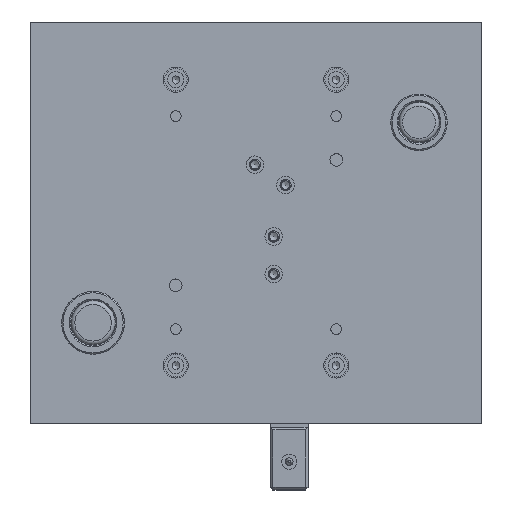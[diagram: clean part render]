
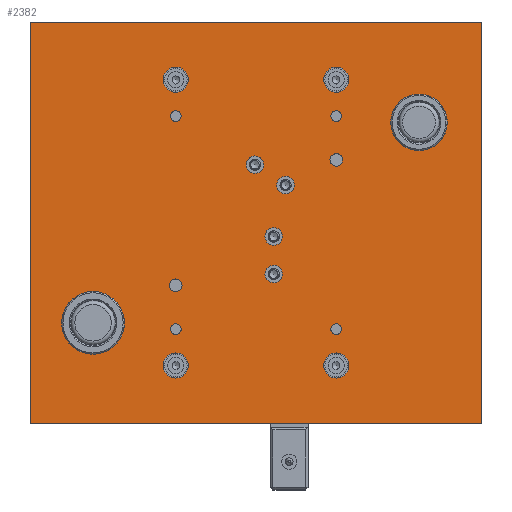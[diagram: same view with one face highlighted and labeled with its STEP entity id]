
A CAD part, top view. The second image highlights one B-rep face of the part: STEP entity #2382.
In plain terms, the highlighted planar face has unit normal (0, 0, 1).
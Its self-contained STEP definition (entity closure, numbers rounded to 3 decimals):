
#719=FACE_BOUND('',#4699,.T.);
#720=FACE_BOUND('',#4700,.T.);
#721=FACE_BOUND('',#4701,.T.);
#722=FACE_BOUND('',#4702,.T.);
#723=FACE_BOUND('',#4703,.T.);
#724=FACE_BOUND('',#4704,.T.);
#725=FACE_BOUND('',#4705,.T.);
#726=FACE_BOUND('',#4706,.T.);
#727=FACE_BOUND('',#4707,.T.);
#728=FACE_BOUND('',#4708,.T.);
#729=FACE_BOUND('',#4709,.T.);
#730=FACE_BOUND('',#4710,.T.);
#731=FACE_BOUND('',#4711,.T.);
#732=FACE_BOUND('',#4712,.T.);
#733=FACE_BOUND('',#4713,.T.);
#734=FACE_BOUND('',#4714,.T.);
#735=FACE_BOUND('',#4715,.T.);
#1608=CIRCLE('',#20901,25.05);
#1609=CIRCLE('',#20902,22.55);
#1610=CIRCLE('',#20903,7.);
#1611=CIRCLE('',#20904,7.);
#1612=CIRCLE('',#20905,7.);
#1613=CIRCLE('',#20906,7.);
#1614=CIRCLE('',#20907,4.25);
#1615=CIRCLE('',#20908,5.);
#1616=CIRCLE('',#20909,4.25);
#1617=CIRCLE('',#20910,4.25);
#1618=CIRCLE('',#20911,10.);
#1619=CIRCLE('',#20912,10.);
#1620=CIRCLE('',#20913,10.);
#1621=CIRCLE('',#20914,10.);
#1622=CIRCLE('',#20915,4.25);
#1623=CIRCLE('',#20916,5.);
#2382=ADVANCED_FACE('',(#719,#720,#721,#722,#723,#724,#725,#726,#727,#728,
#729,#730,#731,#732,#733,#734,#735),#3103,.T.);
#3103=PLANE('',#20917);
#4699=EDGE_LOOP('',(#10855));
#4700=EDGE_LOOP('',(#10856));
#4701=EDGE_LOOP('',(#10857));
#4702=EDGE_LOOP('',(#10858));
#4703=EDGE_LOOP('',(#10859));
#4704=EDGE_LOOP('',(#10860));
#4705=EDGE_LOOP('',(#10861));
#4706=EDGE_LOOP('',(#10862));
#4707=EDGE_LOOP('',(#10863));
#4708=EDGE_LOOP('',(#10864));
#4709=EDGE_LOOP('',(#10865));
#4710=EDGE_LOOP('',(#10866));
#4711=EDGE_LOOP('',(#10867));
#4712=EDGE_LOOP('',(#10868));
#4713=EDGE_LOOP('',(#10869,#10870,#10871,#10872));
#4714=EDGE_LOOP('',(#10873));
#4715=EDGE_LOOP('',(#10874));
#5996=LINE('',#67965,#6946);
#5997=LINE('',#67968,#6947);
#5998=LINE('',#67970,#6948);
#5999=LINE('',#67972,#6949);
#6946=VECTOR('',#23190,1.);
#6947=VECTOR('',#23191,1.);
#6948=VECTOR('',#23192,1.);
#6949=VECTOR('',#23193,1.);
#10855=ORIENTED_EDGE('',*,*,#17476,.F.);
#10856=ORIENTED_EDGE('',*,*,#17477,.F.);
#10857=ORIENTED_EDGE('',*,*,#17478,.F.);
#10858=ORIENTED_EDGE('',*,*,#17479,.F.);
#10859=ORIENTED_EDGE('',*,*,#17480,.F.);
#10860=ORIENTED_EDGE('',*,*,#17481,.F.);
#10861=ORIENTED_EDGE('',*,*,#17482,.F.);
#10862=ORIENTED_EDGE('',*,*,#17483,.T.);
#10863=ORIENTED_EDGE('',*,*,#17484,.F.);
#10864=ORIENTED_EDGE('',*,*,#17485,.T.);
#10865=ORIENTED_EDGE('',*,*,#17486,.F.);
#10866=ORIENTED_EDGE('',*,*,#17487,.F.);
#10867=ORIENTED_EDGE('',*,*,#17488,.F.);
#10868=ORIENTED_EDGE('',*,*,#17489,.F.);
#10869=ORIENTED_EDGE('',*,*,#17490,.F.);
#10870=ORIENTED_EDGE('',*,*,#17491,.F.);
#10871=ORIENTED_EDGE('',*,*,#17492,.F.);
#10872=ORIENTED_EDGE('',*,*,#17493,.F.);
#10873=ORIENTED_EDGE('',*,*,#17494,.T.);
#10874=ORIENTED_EDGE('',*,*,#17495,.T.);
#14757=VERTEX_POINT('',#67938);
#14758=VERTEX_POINT('',#67940);
#14759=VERTEX_POINT('',#67942);
#14760=VERTEX_POINT('',#67944);
#14761=VERTEX_POINT('',#67946);
#14762=VERTEX_POINT('',#67948);
#14763=VERTEX_POINT('',#67950);
#14764=VERTEX_POINT('',#67952);
#14765=VERTEX_POINT('',#67954);
#14766=VERTEX_POINT('',#67956);
#14767=VERTEX_POINT('',#67958);
#14768=VERTEX_POINT('',#67960);
#14769=VERTEX_POINT('',#67962);
#14770=VERTEX_POINT('',#67964);
#14771=VERTEX_POINT('',#67966);
#14772=VERTEX_POINT('',#67967);
#14773=VERTEX_POINT('',#67969);
#14774=VERTEX_POINT('',#67971);
#14775=VERTEX_POINT('',#67974);
#14776=VERTEX_POINT('',#67976);
#17476=EDGE_CURVE('',#14757,#14757,#1608,.T.);
#17477=EDGE_CURVE('',#14758,#14758,#1609,.T.);
#17478=EDGE_CURVE('',#14759,#14759,#1610,.T.);
#17479=EDGE_CURVE('',#14760,#14760,#1611,.T.);
#17480=EDGE_CURVE('',#14761,#14761,#1612,.T.);
#17481=EDGE_CURVE('',#14762,#14762,#1613,.T.);
#17482=EDGE_CURVE('',#14763,#14763,#1614,.T.);
#17483=EDGE_CURVE('',#14764,#14764,#1615,.T.);
#17484=EDGE_CURVE('',#14765,#14765,#1616,.T.);
#17485=EDGE_CURVE('',#14766,#14766,#1617,.T.);
#17486=EDGE_CURVE('',#14767,#14767,#1618,.T.);
#17487=EDGE_CURVE('',#14768,#14768,#1619,.T.);
#17488=EDGE_CURVE('',#14769,#14769,#1620,.T.);
#17489=EDGE_CURVE('',#14770,#14770,#1621,.T.);
#17490=EDGE_CURVE('',#14771,#14772,#5996,.T.);
#17491=EDGE_CURVE('',#14773,#14771,#5997,.T.);
#17492=EDGE_CURVE('',#14774,#14773,#5998,.T.);
#17493=EDGE_CURVE('',#14772,#14774,#5999,.T.);
#17494=EDGE_CURVE('',#14775,#14775,#1622,.T.);
#17495=EDGE_CURVE('',#14776,#14776,#1623,.T.);
#20901=AXIS2_PLACEMENT_3D('',#67937,#23162,#23163);
#20902=AXIS2_PLACEMENT_3D('',#67939,#23164,#23165);
#20903=AXIS2_PLACEMENT_3D('',#67941,#23166,#23167);
#20904=AXIS2_PLACEMENT_3D('',#67943,#23168,#23169);
#20905=AXIS2_PLACEMENT_3D('',#67945,#23170,#23171);
#20906=AXIS2_PLACEMENT_3D('',#67947,#23172,#23173);
#20907=AXIS2_PLACEMENT_3D('',#67949,#23174,#23175);
#20908=AXIS2_PLACEMENT_3D('',#67951,#23176,#23177);
#20909=AXIS2_PLACEMENT_3D('',#67953,#23178,#23179);
#20910=AXIS2_PLACEMENT_3D('',#67955,#23180,#23181);
#20911=AXIS2_PLACEMENT_3D('',#67957,#23182,#23183);
#20912=AXIS2_PLACEMENT_3D('',#67959,#23184,#23185);
#20913=AXIS2_PLACEMENT_3D('',#67961,#23186,#23187);
#20914=AXIS2_PLACEMENT_3D('',#67963,#23188,#23189);
#20915=AXIS2_PLACEMENT_3D('',#67973,#23194,#23195);
#20916=AXIS2_PLACEMENT_3D('',#67975,#23196,#23197);
#20917=AXIS2_PLACEMENT_3D('',#67977,#23198,#23199);
#23162=DIRECTION('',(0.,0.,1.));
#23163=DIRECTION('',(1.,0.,0.));
#23164=DIRECTION('',(0.,0.,1.));
#23165=DIRECTION('',(1.,0.,0.));
#23166=DIRECTION('',(0.,0.,1.));
#23167=DIRECTION('',(1.,0.,0.));
#23168=DIRECTION('',(0.,0.,1.));
#23169=DIRECTION('',(1.,0.,0.));
#23170=DIRECTION('',(0.,0.,1.));
#23171=DIRECTION('',(1.,0.,0.));
#23172=DIRECTION('',(0.,0.,1.));
#23173=DIRECTION('',(1.,0.,0.));
#23174=DIRECTION('',(0.,0.,1.));
#23175=DIRECTION('',(-1.,0.,0.));
#23176=DIRECTION('',(0.,0.,-1.));
#23177=DIRECTION('',(1.,0.,0.));
#23178=DIRECTION('',(0.,0.,1.));
#23179=DIRECTION('',(1.,0.,0.));
#23180=DIRECTION('',(0.,0.,-1.));
#23181=DIRECTION('',(-1.,0.,0.));
#23182=DIRECTION('',(0.,0.,1.));
#23183=DIRECTION('',(1.,0.,0.));
#23184=DIRECTION('',(0.,0.,1.));
#23185=DIRECTION('',(1.,0.,0.));
#23186=DIRECTION('',(0.,0.,1.));
#23187=DIRECTION('',(1.,0.,0.));
#23188=DIRECTION('',(0.,0.,1.));
#23189=DIRECTION('',(1.,0.,0.));
#23190=DIRECTION('',(-1.,0.,0.));
#23191=DIRECTION('',(0.,-1.,0.));
#23192=DIRECTION('',(1.,0.,0.));
#23193=DIRECTION('',(0.,1.,0.));
#23194=DIRECTION('',(0.,0.,-1.));
#23195=DIRECTION('',(1.,0.,0.));
#23196=DIRECTION('',(0.,0.,-1.));
#23197=DIRECTION('',(1.,0.,0.));
#23198=DIRECTION('',(0.,0.,1.));
#23199=DIRECTION('',(1.,0.,0.));
#67937=CARTESIAN_POINT('',(-144.125,-53.938,89.416));
#67938=CARTESIAN_POINT('',(-119.075,-53.938,89.416));
#67939=CARTESIAN_POINT('',(115.875,106.062,89.416));
#67940=CARTESIAN_POINT('',(138.425,106.062,89.416));
#67941=CARTESIAN_POINT('',(0.,15.003,89.416));
#67942=CARTESIAN_POINT('',(7.,15.003,89.416));
#67943=CARTESIAN_POINT('',(-14.959,72.22,89.416));
#67944=CARTESIAN_POINT('',(-7.959,72.22,89.416));
#67945=CARTESIAN_POINT('',(0.,-14.997,89.416));
#67946=CARTESIAN_POINT('',(7.,-14.997,89.416));
#67947=CARTESIAN_POINT('',(9.483,56.008,89.416));
#67948=CARTESIAN_POINT('',(16.483,56.008,89.416));
#67949=CARTESIAN_POINT('',(-78.125,-58.938,89.416));
#67950=CARTESIAN_POINT('',(-82.375,-58.938,89.416));
#67951=CARTESIAN_POINT('',(49.875,76.062,89.416));
#67952=CARTESIAN_POINT('',(54.875,76.062,89.416));
#67953=CARTESIAN_POINT('',(49.875,111.062,89.416));
#67954=CARTESIAN_POINT('',(54.125,111.062,89.416));
#67955=CARTESIAN_POINT('',(-78.125,111.062,89.416));
#67956=CARTESIAN_POINT('',(-82.375,111.062,89.416));
#67957=CARTESIAN_POINT('',(-78.125,140.062,89.416));
#67958=CARTESIAN_POINT('',(-68.125,140.062,89.416));
#67959=CARTESIAN_POINT('',(49.875,140.062,89.416));
#67960=CARTESIAN_POINT('',(59.875,140.062,89.416));
#67961=CARTESIAN_POINT('',(-78.125,-87.938,89.416));
#67962=CARTESIAN_POINT('',(-68.125,-87.938,89.416));
#67963=CARTESIAN_POINT('',(49.875,-87.938,89.416));
#67964=CARTESIAN_POINT('',(59.875,-87.938,89.416));
#67965=CARTESIAN_POINT('',(-24.125,-133.938,89.416));
#67966=CARTESIAN_POINT('',(165.875,-133.938,89.416));
#67967=CARTESIAN_POINT('',(-194.125,-133.938,89.416));
#67968=CARTESIAN_POINT('',(165.875,26.062,89.416));
#67969=CARTESIAN_POINT('',(165.875,186.062,89.416));
#67970=CARTESIAN_POINT('',(-24.125,186.062,89.416));
#67971=CARTESIAN_POINT('',(-194.125,186.062,89.416));
#67972=CARTESIAN_POINT('',(-194.125,26.062,89.416));
#67973=CARTESIAN_POINT('',(49.875,-58.938,89.416));
#67974=CARTESIAN_POINT('',(54.125,-58.938,89.416));
#67975=CARTESIAN_POINT('',(-78.125,-23.938,89.416));
#67976=CARTESIAN_POINT('',(-73.125,-23.938,89.416));
#67977=CARTESIAN_POINT('',(-24.125,26.062,89.416));
